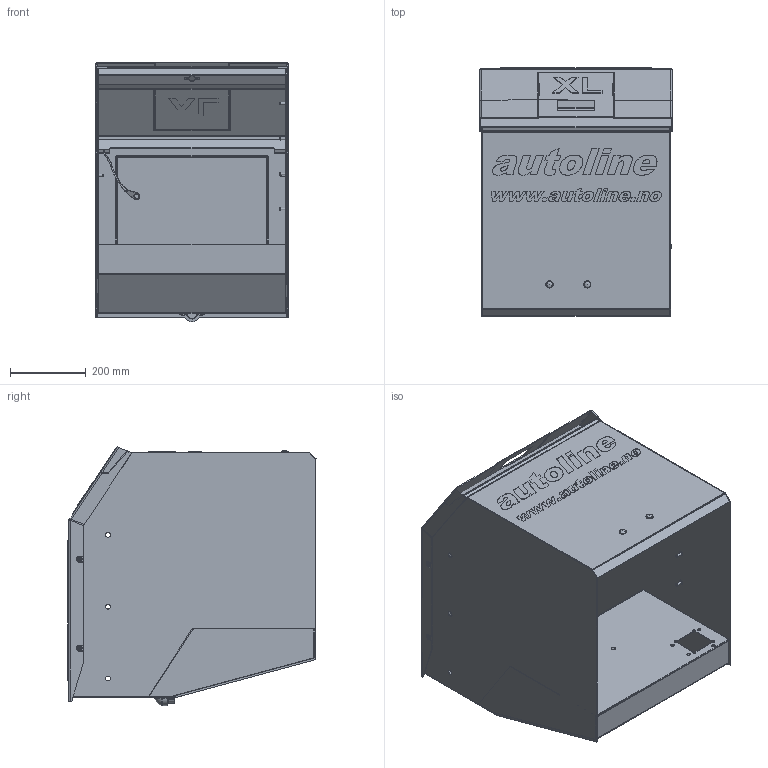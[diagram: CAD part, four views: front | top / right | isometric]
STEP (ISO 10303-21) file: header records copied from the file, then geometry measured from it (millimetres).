
FILE_DESCRIPTION((''),'2;1');
FILE_NAME('C:\Projects_1\Workspace\Autoline\S90XL\S90XL.stp','2011-05-01T18:48:49',('borhar'),(''),'Autodesk Inventor 2012','Autodesk Inventor 2012','');
FILE_SCHEMA(('AUTOMOTIVE_DESIGN { 1 0 10303 214 1 1 1 1 }'));
Length unit declared in the file: millimetre
Products named in the file (19): S90XL; S90XL -Coverplate; S90XL -LeftSide; S90XL -RigthSide; S90XL -Front; S90XL -Motorplate; S90XL -Rearplate; S90XL -2302001; S90XL -2302090; S90XL -2302090-1; -Wire; -F- Wire; -F- wirebrakett; 2199003; 4498118; 4498409-Flat; 4498419-Flat
Assembly tree (27 placements, depth 4):
  S90XL
    S90XL -Coverplate
    S90XL -LeftSide
    S90XL -RigthSide
    S90XL -Front
    S90XL -Motorplate
    S90XL -Rearplate
    S90XL -2302001
      S90XL -2302001
    S90XL -2302090
      S90XL -2302090
      S90XL -2302090-1
      -Wire
        -F- Wire
        -F- wirebrakett
    2199003
    4498118  x2
    4498409-Flat  x2
    4498419-Flat  x8
Bounding box: 509 x 656.38 x 685.89 mm (x, y, z)
Volume: 4160500.7 mm3; surface area: 4392650.7 mm2
Topology: 27 solids, 27 shells, 872 faces, 2225 edges, 1448 vertices
Faces by surface type: plane 462, cylinder 203, bspline 155, torus 29, sphere 15, revolution 6, cone 2
Full cylindrical faces by diameter (mm): 3 x1, 3.5 x4, 4.8 x2, 5 x5, 7 x22, 8 x2, 8.5 x4, 11 x1, 13 x7, 18 x1
Entity records: 25666 total; most frequent: CARTESIAN_POINT 6634, ORIENTED_EDGE 3854, DIRECTION 3472, EDGE_CURVE 1927, VECTOR 1274, LINE 1274, VERTEX_POINT 1263, AXIS2_PLACEMENT_3D 1096
